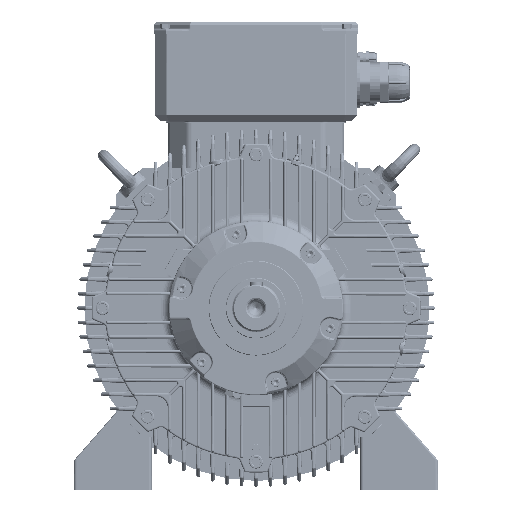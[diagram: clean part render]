
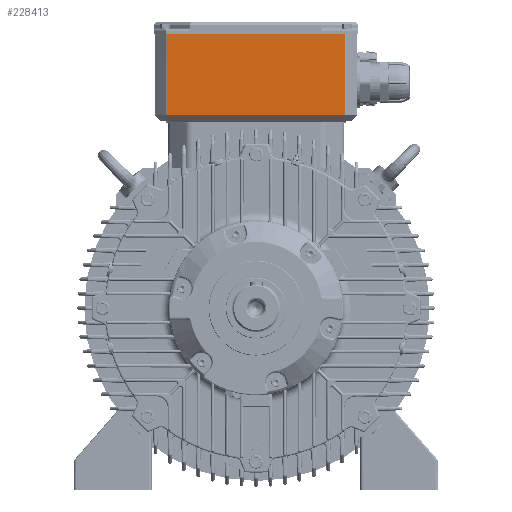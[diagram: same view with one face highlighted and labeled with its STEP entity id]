
A CAD part, front view. The second image highlights one B-rep face of the part: STEP entity #228413.
In plain terms, the highlighted planar face has unit normal (0, -1, 0).
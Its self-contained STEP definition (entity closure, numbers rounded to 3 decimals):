
#5074=LINE('',#303435,#20860);
#5106=LINE('',#303542,#20892);
#5111=LINE('',#303556,#20897);
#5112=LINE('',#303558,#20898);
#20860=VECTOR('',#255819,1000.);
#20892=VECTOR('',#255933,1000.);
#20897=VECTOR('',#255948,1000.);
#20898=VECTOR('',#255949,1000.);
#36742=PLANE('',#238697);
#46600=ORIENTED_EDGE('',*,*,#93084,.T.);
#46601=ORIENTED_EDGE('',*,*,#93145,.T.);
#46602=ORIENTED_EDGE('',*,*,#93146,.T.);
#46603=ORIENTED_EDGE('',*,*,#93138,.T.);
#93084=EDGE_CURVE('',#116673,#116672,#5074,.F.);
#93138=EDGE_CURVE('',#116707,#116673,#5106,.T.);
#93145=EDGE_CURVE('',#116672,#116711,#5111,.T.);
#93146=EDGE_CURVE('',#116711,#116707,#5112,.T.);
#116672=VERTEX_POINT('',#303434);
#116673=VERTEX_POINT('',#303436);
#116707=VERTEX_POINT('',#303543);
#116711=VERTEX_POINT('',#303557);
#137590=EDGE_LOOP('',(#46600,#46601,#46602,#46603));
#149550=FACE_BOUND('',#137590,.T.);
#228413=ADVANCED_FACE('',(#149550),#36742,.T.);
#238697=AXIS2_PLACEMENT_3D('',#303555,#255946,#255947);
#255819=DIRECTION('',(0.,0.,-1.));
#255933=DIRECTION('',(1.,0.,0.));
#255946=DIRECTION('',(0.,-1.,0.));
#255947=DIRECTION('',(1.,0.,0.));
#255948=DIRECTION('',(-1.,0.,0.));
#255949=DIRECTION('',(0.,0.,-1.));
#303434=CARTESIAN_POINT('',(153.757,40.,474.));
#303435=CARTESIAN_POINT('',(153.757,40.,476.5));
#303436=CARTESIAN_POINT('',(153.757,40.,334.));
#303542=CARTESIAN_POINT('',(155.,40.,334.));
#303543=CARTESIAN_POINT('',(-153.757,40.,334.));
#303555=CARTESIAN_POINT('',(155.,40.,476.5));
#303556=CARTESIAN_POINT('',(-189.445,40.,474.));
#303557=CARTESIAN_POINT('',(-153.757,40.,474.));
#303558=CARTESIAN_POINT('',(-153.757,40.,476.5));
